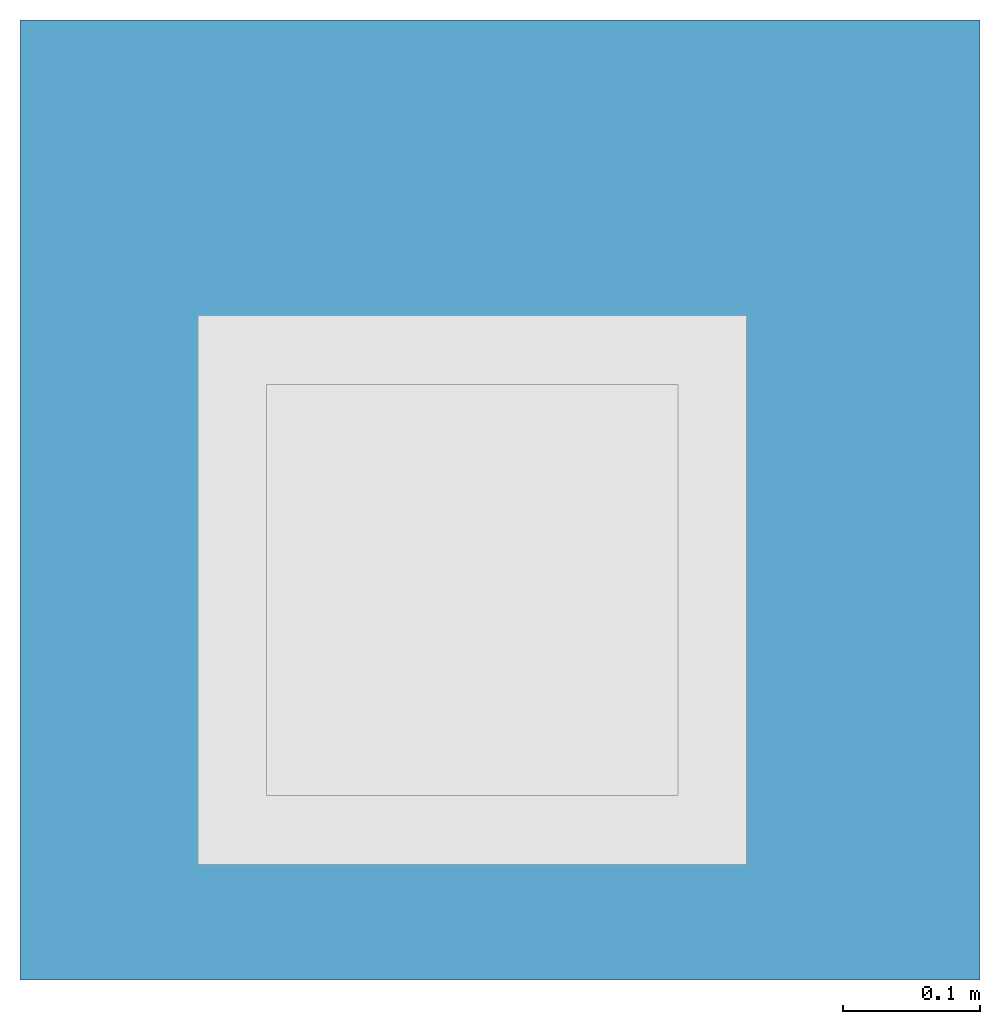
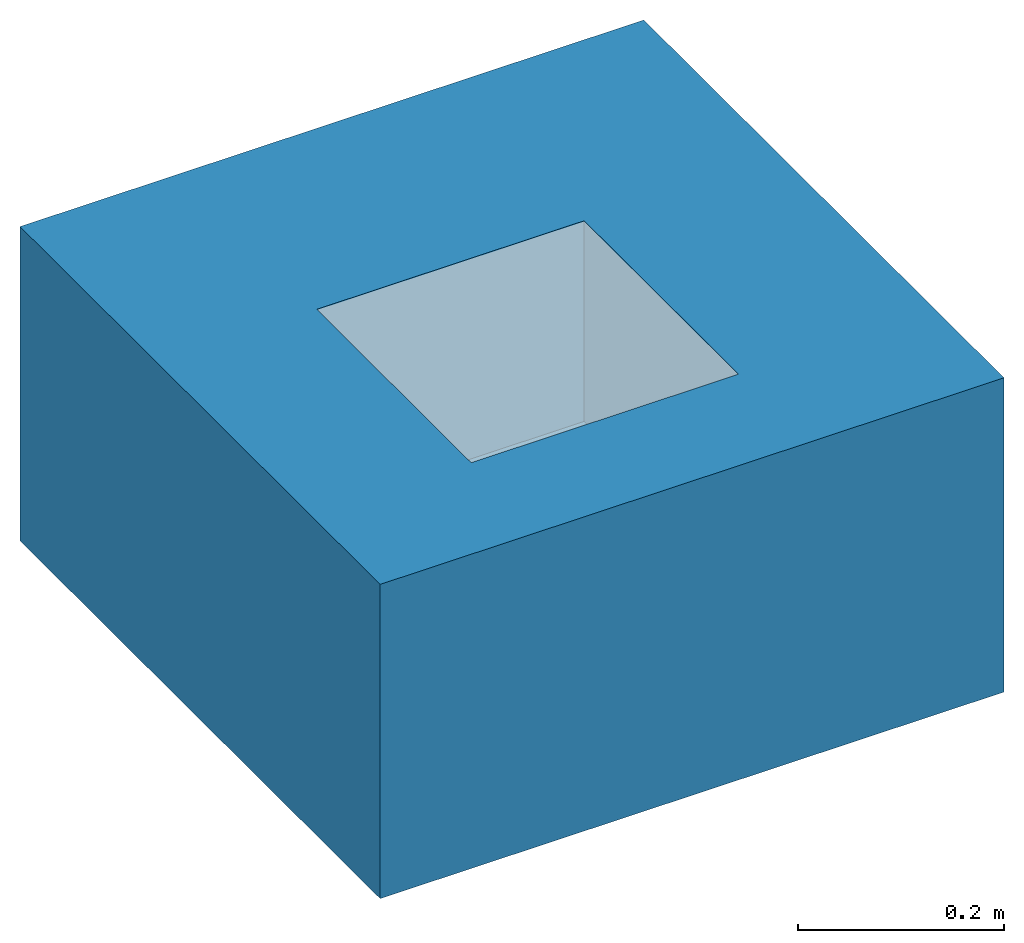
# One storey, incomplete: 1 slab, 1 opening.
"""IFC2X3 building model written with IfcOpenShell, lengths in millimetres."""

from ifc_helpers import new_model, entity, si_unit, converted_unit, derived_unit, direction, frame, frame_2d, origin, place, context, subcontext, project, spatial, rectangle, extrude, faceted_brep, material, layer, layer_set, layer_usage, element, save


model = new_model("IFC2X3")

# Units and contexts
model_context = context("Model", 3, precision=1e-05, world=origin(), true_north=direction((2.0, 6.12303176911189e-17, 1.0)))
context_of_model = context(None, 3, precision=1e-05, world=origin(), true_north=direction((2.0, 6.12303176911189e-17, 1.0)))
body_context = subcontext(model_context, "Body", "Model", "MODEL_VIEW")
ifc_project = project(units=[si_unit("LENGTHUNIT", "METRE", prefix="MILLI"), converted_unit("AREAUNIT", "SQUARE FOOT", entity("IfcRatioMeasure", 0.09290304), si_unit("AREAUNIT", "SQUARE_METRE"), dimensions=[2, 0, 0, 0, 0, 0, 0]), converted_unit("VOLUMEUNIT", "CUBIC FOOT", entity("IfcRatioMeasure", 0.028316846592), si_unit("VOLUMEUNIT", "CUBIC_METRE"), dimensions=[3, 0, 0, 0, 0, 0, 0]), converted_unit("PLANEANGLEUNIT", "DEGREE", entity("IfcRatioMeasure", 0.0174532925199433), si_unit("PLANEANGLEUNIT", "RADIAN"), dimensions=[0, 0, 0, 0, 0, 0, 0]), si_unit("MASSUNIT", "GRAM", prefix="KILO"), si_unit("TIMEUNIT", "SECOND"), si_unit("THERMODYNAMICTEMPERATUREUNIT", "KELVIN"), derived_unit("THERMALTRANSMITTANCEUNIT", [(si_unit("MASSUNIT", "GRAM", prefix="KILO"), 1), (si_unit("THERMODYNAMICTEMPERATUREUNIT", "KELVIN"), -1), (si_unit("TIMEUNIT", "SECOND"), -3)]), derived_unit("VOLUMETRICFLOWRATEUNIT", [(si_unit("LENGTHUNIT", "METRE"), 3), (si_unit("TIMEUNIT", "SECOND"), -1)]), si_unit("POWERUNIT", "WATT")], contexts=[model_context, context_of_model])

# Site, building, storey
site_placement = place(None, origin())
site = spatial("IfcSite", under=ifc_project, at=site_placement, Name="Default", CompositionType="ELEMENT")
building_placement = place(site_placement, origin())
building = spatial("IfcBuilding", under=site, at=building_placement, CompositionType="ELEMENT")
storey_placement = place(building_placement, origin())
storey = spatial("IfcBuildingStorey", under=building, at=storey_placement, Name="Level 1", CompositionType="ELEMENT", Elevation=0.0)

# Slab, opening
ifc_material_1 = material(Name="Plywood, Sheathing")
ifc_layer_1 = layer(ifc_material_1, 68.0)
ifc_material_2 = material(Name="Default Floor")
ifc_layer_2 = layer(ifc_material_2, 304.8)
ifc_layer_set = layer_set([ifc_layer_1, ifc_layer_2], Name="Floor:Generic - 12\"")
ifc_layer_usage = layer_usage(ifc_layer_set, "AXIS3", "POSITIVE", 0.0)
slab_placement = place(storey_placement, frame((-10498.0627721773, 2392.60708548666, -372.8)))
slab = element("IfcSlab", 1, at=slab_placement, inside=storey, material=ifc_layer_usage, Name="Floor:Generic - 12\"", ObjectType="Floor:Generic - 12\"", PredefinedType="FLOOR", context=body_context, shape_type="SweptSolid", body=[
    extrude(rectangle(XDim=700.0, YDim=699.999999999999, at=frame_2d((0.0, 0.0), x_axis=(0.0, -1.0))), frame((350.0, 350.0, 372.8), z_axis=(0.0, 0.0, -1.0), x_axis=(-1.0, 0.0, 0.0)), (0.0, 0.0, 1.0), 372.8),
])
opening_placement = place(slab_placement, frame((179.716081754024, 134.384728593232, 36.799999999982)))
element("IfcOpeningElement", 2, at=opening_placement, cuts=slab, ObjectType="Recess", context=body_context, shape_type="Brep", body=[
    faceted_brep([(0.0, 300.0, 98.0), (102.368602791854, 177.5, 98.0), (96.8740795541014, 164.235047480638, 98.0), (111.109127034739, 188.89087296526, 98.0), (95.0, 150.0, 98.0), (150.0, 205.0, 98.0), (135.76495251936, 203.125920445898, 98.0), (122.5, 197.631397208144, 98.0), (300.0, 300.0, 98.0), (0.0, 0.0, 98.0), (96.8740795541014, 135.764952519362, 98.0), (102.368602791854, 122.5, 98.0), (111.109127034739, 111.10912703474, 98.0), (122.5, 102.368602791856, 98.0), (135.76495251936, 96.8740795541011, 98.0), (150.0, 95.0, 98.0), (177.499999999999, 197.631397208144, 98.0), (164.235047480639, 203.125920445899, 98.0), (188.890872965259, 188.89087296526, 98.0), (197.631397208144, 177.5, 98.0), (203.125920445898, 164.235047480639, 98.0), (205.0, 150.0, 98.0), (300.0, 0.0, 98.0), (164.235047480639, 96.8740795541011, 98.0), (177.499999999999, 102.368602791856, 98.0), (197.631397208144, 122.499999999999, 98.0), (203.125920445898, 135.764952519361, 98.0), (188.890872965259, 111.10912703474, 98.0), (300.0, 0.0, 336.0), (300.0, 300.0, 336.0), (0.0, 300.0, 336.0), (0.0, 0.0, 336.0), (150.0, 205.0, 0.0), (164.235047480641, 203.125920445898, 0.0), (177.500000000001, 197.631397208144, 0.0), (135.764952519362, 203.125920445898, 0.0), (197.631397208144, 177.5, 0.0), (188.890872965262, 188.89087296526, 0.0), (122.5, 102.368602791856, 0.0), (102.368602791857, 177.5, 0.0), (111.109127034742, 188.89087296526, 0.0), (122.5, 197.631397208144, 0.0), (95.0, 150.0, 0.0), (96.8740795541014, 164.235047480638, 0.0), (102.368602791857, 122.5, 0.0), (205.0, 150.0, 0.0), (203.1259204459, 164.235047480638, 0.0), (203.1259204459, 135.764952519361, 0.0), (197.631397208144, 122.499999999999, 0.0), (177.500000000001, 102.368602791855, 0.0), (150.0, 95.0, 0.0), (188.890872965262, 111.109127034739, 0.0), (164.235047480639, 96.8740795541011, 0.0), (111.109127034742, 111.10912703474, 0.0), (96.8740795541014, 135.764952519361, 0.0), (135.764952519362, 96.8740795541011, 0.0)], [[[0, 1, 2]], [[1, 0, 3]], [[0, 2, 4]], [[5, 6, 0]], [[7, 3, 0]], [[6, 7, 0]], [[0, 8, 5]], [[9, 4, 10]], [[4, 9, 0]], [[9, 10, 11]], [[11, 12, 9]], [[13, 14, 9]], [[12, 13, 9]], [[9, 14, 15]], [[16, 17, 8]], [[18, 16, 8]], [[19, 8, 20]], [[8, 19, 18]], [[21, 20, 8]], [[8, 22, 21]], [[17, 5, 8]], [[23, 24, 22]], [[15, 23, 22]], [[25, 26, 22]], [[27, 22, 24]], [[22, 27, 25]], [[26, 21, 22]], [[15, 22, 9]], [[28, 29, 30]], [[30, 31, 28]], [[30, 29, 0]], [[8, 0, 29]], [[31, 30, 9]], [[0, 9, 30]], [[28, 31, 22]], [[9, 22, 31]], [[29, 28, 8]], [[22, 8, 28]], [[32, 33, 34]], [[35, 32, 34]], [[35, 34, 36]], [[36, 34, 37]], [[38, 39, 36]], [[35, 40, 41]], [[35, 36, 40]], [[39, 42, 43]], [[40, 36, 39]], [[39, 44, 42]], [[45, 36, 46]], [[45, 47, 48]], [[45, 48, 49]], [[45, 49, 50]], [[49, 48, 51]], [[50, 49, 52]], [[44, 38, 53]], [[54, 42, 44]], [[38, 50, 55]], [[44, 39, 38]], [[50, 38, 45]], [[36, 45, 38]], [[10, 54, 44]], [[53, 11, 44]], [[13, 38, 55]], [[53, 38, 12]], [[14, 55, 50]], [[54, 4, 42]], [[54, 10, 4]], [[44, 11, 10]], [[53, 12, 11]], [[13, 12, 38]], [[55, 14, 13]], [[50, 15, 14]], [[23, 52, 49]], [[51, 24, 49]], [[25, 48, 47]], [[51, 48, 27]], [[26, 47, 45]], [[52, 23, 15]], [[49, 24, 23]], [[51, 27, 24]], [[48, 25, 27]], [[26, 25, 47]], [[45, 21, 26]], [[52, 15, 50]], [[20, 45, 46]], [[19, 46, 36]], [[16, 34, 33]], [[17, 33, 32]], [[46, 19, 20]], [[20, 21, 45]], [[37, 18, 19]], [[37, 34, 18]], [[18, 34, 16]], [[33, 17, 16]], [[37, 19, 36]], [[32, 5, 17]], [[6, 35, 41]], [[40, 7, 41]], [[1, 39, 43]], [[40, 39, 3]], [[2, 43, 42]], [[35, 6, 5]], [[41, 7, 6]], [[40, 3, 7]], [[39, 1, 3]], [[2, 1, 43]], [[42, 4, 2]], [[35, 5, 32]]]),
])

save(model, "model.ifc")
